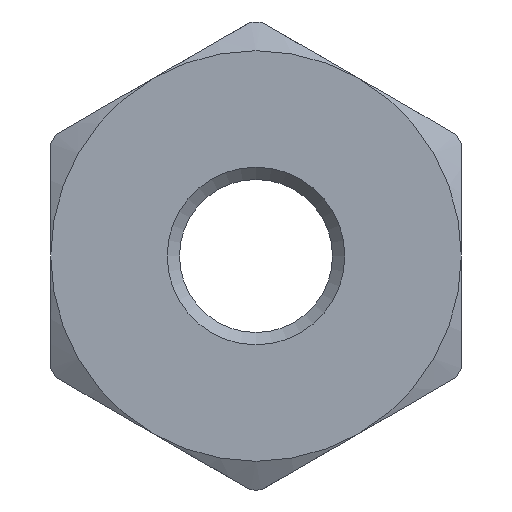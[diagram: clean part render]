
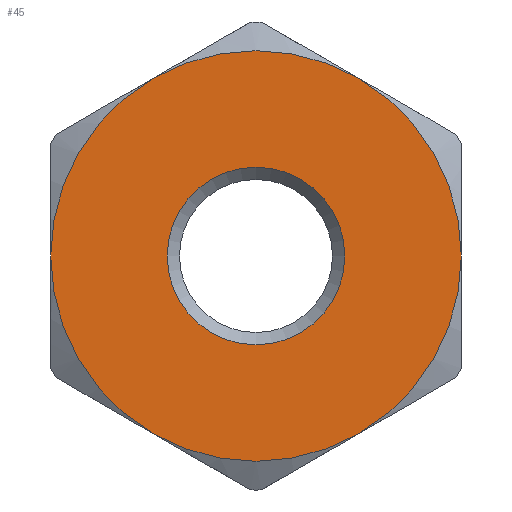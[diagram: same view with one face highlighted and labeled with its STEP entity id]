
A CAD part, front view. The second image highlights one B-rep face of the part: STEP entity #45.
In plain terms, the highlighted planar face has unit normal (0, -1, 0).
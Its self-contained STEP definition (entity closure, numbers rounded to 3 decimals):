
#45=ADVANCED_FACE('',(#77,#79),#81,.F.);
#77=FACE_BOUND('',#78,.T.);
#78=EDGE_LOOP('',(#254,#255,#256,#257));
#79=FACE_BOUND('',#80,.T.);
#80=EDGE_LOOP('',(#258));
#81=PLANE('',#82);
#82=AXIS2_PLACEMENT_3D('',#83,#84,#85);
#83=CARTESIAN_POINT('',(0.,0.,0.));
#84=DIRECTION('',(0.,1.,0.));
#85=DIRECTION('',(-1.,0.,0.));
#254=ORIENTED_EDGE('',*,*,#356,.T.);
#255=ORIENTED_EDGE('',*,*,#357,.T.);
#256=ORIENTED_EDGE('',*,*,#358,.T.);
#257=ORIENTED_EDGE('',*,*,#359,.T.);
#258=ORIENTED_EDGE('',*,*,#360,.T.);
#356=EDGE_CURVE('',#409,#410,#411,.F.);
#357=EDGE_CURVE('',#410,#412,#413,.F.);
#358=EDGE_CURVE('',#412,#414,#415,.F.);
#359=EDGE_CURVE('',#414,#409,#416,.F.);
#360=EDGE_CURVE('',#417,#417,#418,.T.);
#409=VERTEX_POINT('',#501);
#410=VERTEX_POINT('',#502);
#411=CIRCLE('',#503,25.);
#412=VERTEX_POINT('',#507);
#413=CIRCLE('',#508,25.);
#414=VERTEX_POINT('',#512);
#415=CIRCLE('',#513,25.);
#416=CIRCLE('',#517,25.);
#417=VERTEX_POINT('',#521);
#418=CIRCLE('',#522,10.816);
#501=CARTESIAN_POINT('',(25.,0.,0.));
#502=CARTESIAN_POINT('',(-12.5,0.,21.651));
#503=AXIS2_PLACEMENT_3D('',#504,#505,#506);
#504=CARTESIAN_POINT('',(0.,0.,0.));
#505=DIRECTION('',(0.,1.,0.));
#506=DIRECTION('',(-0.5,0.,0.866));
#507=CARTESIAN_POINT('',(-25.,0.,0.));
#508=AXIS2_PLACEMENT_3D('',#509,#510,#511);
#509=CARTESIAN_POINT('',(0.,0.,0.));
#510=DIRECTION('',(0.,1.,0.));
#511=DIRECTION('',(-1.,0.,0.));
#512=CARTESIAN_POINT('',(-12.5,0.,-21.651));
#513=AXIS2_PLACEMENT_3D('',#514,#515,#516);
#514=CARTESIAN_POINT('',(0.,0.,0.));
#515=DIRECTION('',(0.,1.,0.));
#516=DIRECTION('',(-0.5,0.,-0.866));
#517=AXIS2_PLACEMENT_3D('',#518,#519,#520);
#518=CARTESIAN_POINT('',(0.,0.,0.));
#519=DIRECTION('',(0.,1.,0.));
#520=DIRECTION('',(1.,0.,0.));
#521=CARTESIAN_POINT('',(-10.816,0.,0.));
#522=AXIS2_PLACEMENT_3D('',#523,#524,#525);
#523=CARTESIAN_POINT('',(0.,0.,0.));
#524=DIRECTION('',(0.,1.,0.));
#525=DIRECTION('',(-1.,0.,0.));
